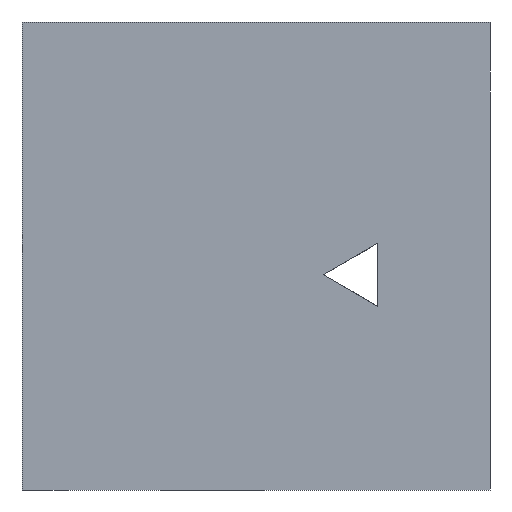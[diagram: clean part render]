
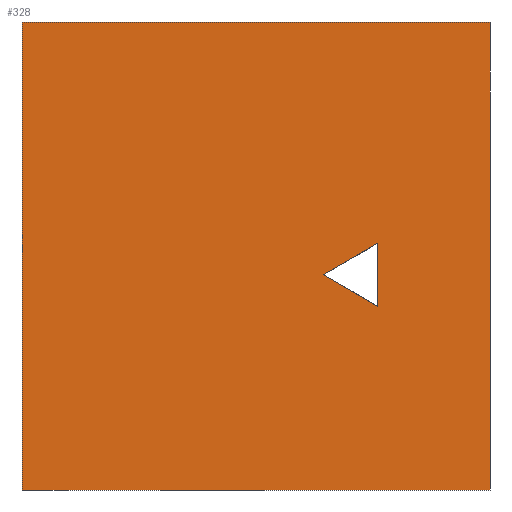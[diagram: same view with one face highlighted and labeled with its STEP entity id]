
A CAD part, front view. The second image highlights one B-rep face of the part: STEP entity #328.
In plain terms, the highlighted planar face has unit normal (0, -1, 0).
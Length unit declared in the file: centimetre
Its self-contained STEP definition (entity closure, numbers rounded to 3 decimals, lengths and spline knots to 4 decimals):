
#61 = LINE ( 'NONE', #2121, #169 ) ;
#78 = DIRECTION ( 'NONE',  ( 0., 0., 1. ) ) ;
#132 = VECTOR ( 'NONE', #1711, 100. ) ;
#169 = VECTOR ( 'NONE', #584, 100. ) ;
#174 = CARTESIAN_POINT ( 'NONE',  ( 643.6569, 0., 459.9892 ) ) ;
#175 = CARTESIAN_POINT ( 'NONE',  ( 1000., 0., 0. ) ) ;
#192 = ORIENTED_EDGE ( 'NONE', *, *, #1241, .T. ) ;
#222 = DIRECTION ( 'NONE',  ( 0., 0., -1. ) ) ;
#258 = LINE ( 'NONE', #2129, #1691 ) ;
#269 = DIRECTION ( 'NONE',  ( 0., 1., 0. ) ) ;
#325 = CARTESIAN_POINT ( 'NONE',  ( 0., 0., 1000. ) ) ;
#328 = ADVANCED_FACE ( 'NONE', ( #1813, #605 ), #944, .F. ) ;
#378 = CARTESIAN_POINT ( 'NONE',  ( 760.6335, 0., 527.3933 ) ) ;
#385 = ORIENTED_EDGE ( 'NONE', *, *, #1746, .T. ) ;
#469 = CARTESIAN_POINT ( 'NONE',  ( 0., 0., 1000. ) ) ;
#566 = VERTEX_POINT ( 'NONE', #378 ) ;
#584 = DIRECTION ( 'NONE',  ( 0.866, 0., 0.499 ) ) ;
#605 = FACE_OUTER_BOUND ( 'NONE', #2089, .T. ) ;
#612 = VECTOR ( 'NONE', #2093, 100. ) ;
#646 = EDGE_LOOP ( 'NONE', ( #385, #1363, #192 ) ) ;
#682 = DIRECTION ( 'NONE',  ( 0., 0., -1. ) ) ;
#702 = LINE ( 'NONE', #1405, #1323 ) ;
#711 = VERTEX_POINT ( 'NONE', #1101 ) ;
#715 = LINE ( 'NONE', #1231, #612 ) ;
#944 = PLANE ( 'NONE',  #1324 ) ;
#1042 = CARTESIAN_POINT ( 'NONE',  ( 760.6335, 0., 392.3866 ) ) ;
#1073 = VERTEX_POINT ( 'NONE', #174 ) ;
#1101 = CARTESIAN_POINT ( 'NONE',  ( 1000., 0., 1000. ) ) ;
#1117 = ORIENTED_EDGE ( 'NONE', *, *, #1665, .T. ) ;
#1134 = EDGE_CURVE ( 'NONE', #1745, #1545, #715, .T. ) ;
#1225 = ORIENTED_EDGE ( 'NONE', *, *, #2100, .F. ) ;
#1231 = CARTESIAN_POINT ( 'NONE',  ( 0., 0., 0. ) ) ;
#1241 = EDGE_CURVE ( 'NONE', #1645, #1073, #258, .T. ) ;
#1266 = ORIENTED_EDGE ( 'NONE', *, *, #1846, .F. ) ;
#1285 = CARTESIAN_POINT ( 'NONE',  ( 1000., 0., 1000. ) ) ;
#1323 = VECTOR ( 'NONE', #222, 100. ) ;
#1324 = AXIS2_PLACEMENT_3D ( 'NONE', #1476, #269, #78 ) ;
#1336 = VERTEX_POINT ( 'NONE', #469 ) ;
#1363 = ORIENTED_EDGE ( 'NONE', *, *, #1527, .T. ) ;
#1405 = CARTESIAN_POINT ( 'NONE',  ( 0., 0., 1000. ) ) ;
#1427 = CARTESIAN_POINT ( 'NONE',  ( 0., 0., 0. ) ) ;
#1476 = CARTESIAN_POINT ( 'NONE',  ( 0., 0., 1000. ) ) ;
#1527 = EDGE_CURVE ( 'NONE', #566, #1645, #1880, .T. ) ;
#1545 = VERTEX_POINT ( 'NONE', #175 ) ;
#1602 = DIRECTION ( 'NONE',  ( 0., 0., -1. ) ) ;
#1640 = LINE ( 'NONE', #1285, #1858 ) ;
#1645 = VERTEX_POINT ( 'NONE', #1042 ) ;
#1665 = EDGE_CURVE ( 'NONE', #1336, #1745, #702, .T. ) ;
#1691 = VECTOR ( 'NONE', #2139, 100. ) ;
#1711 = DIRECTION ( 'NONE',  ( 1., 0., 0. ) ) ;
#1745 = VERTEX_POINT ( 'NONE', #1427 ) ;
#1746 = EDGE_CURVE ( 'NONE', #1073, #566, #61, .T. ) ;
#1813 = FACE_BOUND ( 'NONE', #646, .T. ) ;
#1846 = EDGE_CURVE ( 'NONE', #711, #1545, #1640, .T. ) ;
#1854 = LINE ( 'NONE', #325, #132 ) ;
#1858 = VECTOR ( 'NONE', #1602, 100. ) ;
#1880 = LINE ( 'NONE', #2215, #2003 ) ;
#2003 = VECTOR ( 'NONE', #682, 100. ) ;
#2082 = ORIENTED_EDGE ( 'NONE', *, *, #1134, .T. ) ;
#2089 = EDGE_LOOP ( 'NONE', ( #2082, #1266, #1225, #1117 ) ) ;
#2093 = DIRECTION ( 'NONE',  ( 1., 0., 0. ) ) ;
#2100 = EDGE_CURVE ( 'NONE', #1336, #711, #1854, .T. ) ;
#2121 = CARTESIAN_POINT ( 'NONE',  ( 760.6335, 0., 527.3933 ) ) ;
#2129 = CARTESIAN_POINT ( 'NONE',  ( 643.6569, 0., 459.9892 ) ) ;
#2139 = DIRECTION ( 'NONE',  ( -0.866, 0., 0.5 ) ) ;
#2215 = CARTESIAN_POINT ( 'NONE',  ( 760.6335, 0., 392.3866 ) ) ;
